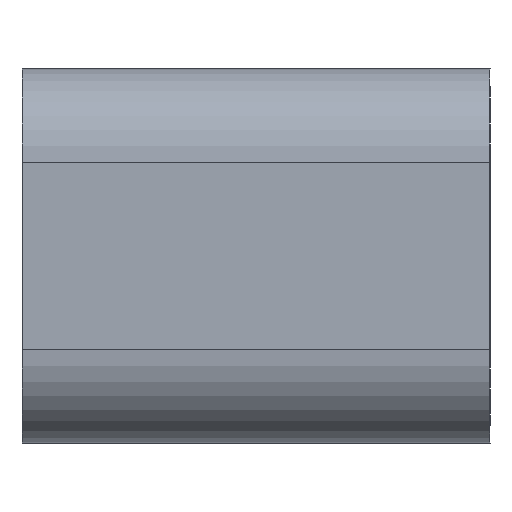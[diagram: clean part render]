
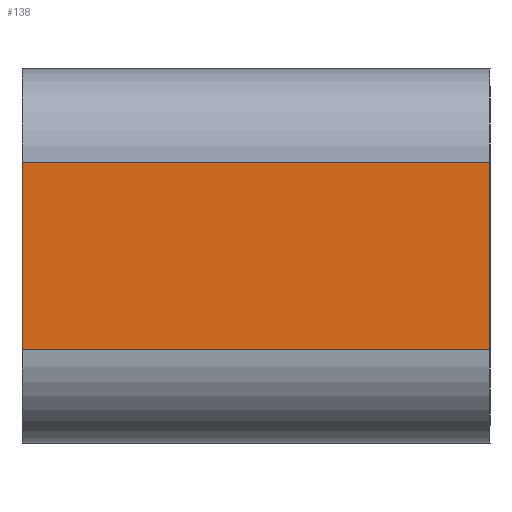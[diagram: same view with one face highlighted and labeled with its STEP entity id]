
A CAD part, left-side view. The second image highlights one B-rep face of the part: STEP entity #138.
In plain terms, the highlighted planar face has unit normal (-1, 0, 0).
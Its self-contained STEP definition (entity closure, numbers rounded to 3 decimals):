
#138=ADVANCED_FACE('',(#261),#262,.T.);
#261=FACE_OUTER_BOUND('',#370,.T.);
#262=PLANE('',#371);
#370=EDGE_LOOP('',(#629,#630,#631,#632));
#371=AXIS2_PLACEMENT_3D('',#633,#634,#635);
#629=ORIENTED_EDGE('',*,*,#782,.T.);
#630=ORIENTED_EDGE('',*,*,#763,.F.);
#631=ORIENTED_EDGE('',*,*,#754,.F.);
#632=ORIENTED_EDGE('',*,*,#780,.T.);
#633=CARTESIAN_POINT('',(-20.0,10.0,0.0));
#634=DIRECTION('',(-1.0,0.0,0.0));
#635=DIRECTION('',(0.0,0.0,-1.0));
#754=EDGE_CURVE('',#913,#915,#916,.T.);
#763=EDGE_CURVE('',#915,#925,#929,.T.);
#780=EDGE_CURVE('',#913,#949,#951,.T.);
#782=EDGE_CURVE('',#949,#925,#953,.T.);
#913=VERTEX_POINT('',#1117);
#915=VERTEX_POINT('',#1119);
#916=LINE('',#1120,#1121);
#925=VERTEX_POINT('',#1133);
#929=LINE('',#1138,#1139);
#949=VERTEX_POINT('',#1166);
#951=LINE('',#1168,#1169);
#953=LINE('',#1171,#1172);
#1117=CARTESIAN_POINT('',(-20.0,10.0,-4.0));
#1119=CARTESIAN_POINT('',(-20.0,10.0,4.0));
#1120=CARTESIAN_POINT('',(-20.0,10.0,-4.0));
#1121=VECTOR('',#1301,1.0);
#1133=CARTESIAN_POINT('',(-20.0,-10.0,4.0));
#1138=CARTESIAN_POINT('',(-20.0,10.0,4.0));
#1139=VECTOR('',#1312,1.0);
#1166=CARTESIAN_POINT('',(-20.0,-10.0,-4.0));
#1168=CARTESIAN_POINT('',(-20.0,10.0,-4.0));
#1169=VECTOR('',#1329,1.0);
#1171=CARTESIAN_POINT('',(-20.0,-10.0,-4.0));
#1172=VECTOR('',#1330,1.0);
#1301=DIRECTION('',(0.0,0.0,1.0));
#1312=DIRECTION('',(0.0,-1.0,0.0));
#1329=DIRECTION('',(0.0,-1.0,0.0));
#1330=DIRECTION('',(0.0,0.0,1.0));
